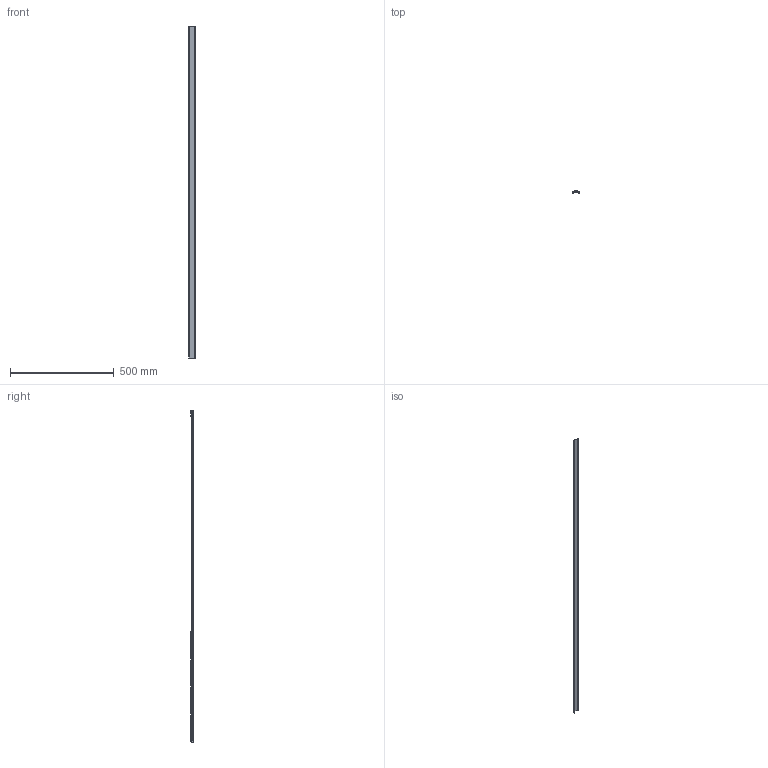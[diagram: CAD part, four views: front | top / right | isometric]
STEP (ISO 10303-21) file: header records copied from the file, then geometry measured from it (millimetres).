
FILE_DESCRIPTION((''),'2;1');
FILE_NAME('16206627_LINEAR-LENS-60GRAD','2015-01-20T',('bernhard.fink'),(''),'PRO/ENGINEER BY PARAMETRIC TECHNOLOGY CORPORATION, 2014000','PRO/ENGINEER BY PARAMETRIC TECHNOLOGY CORPORATION, 2014000','');
FILE_SCHEMA(('AUTOMOTIVE_DESIGN { 1 0 10303 214 1 1 1 1 }'));
Length unit declared in the file: millimetre
Products named in the file (1): 16206627_LINEAR-LENS-60GRAD
Bounding box: 32 x 13.11 x 1600 mm (x, y, z)
Volume: 220547.8 mm3; surface area: 158231.4 mm2
Topology: 1 solids, 1 shells, 26 faces, 72 edges, 48 vertices
Faces by surface type: plane 13, cylinder 12, extrusion 1
Entity records: 1541 total; most frequent: CARTESIAN_POINT 245, DIRECTION 145, ORIENTED_EDGE 144, PRESENTATION_STYLE_ASSIGNMENT 73, STYLED_ITEM 73, CURVE_STYLE 72, EDGE_CURVE 72, COLOUR_RGB 65
